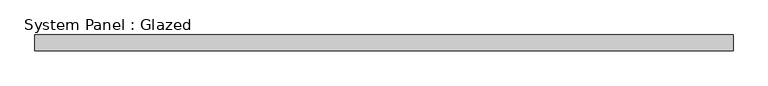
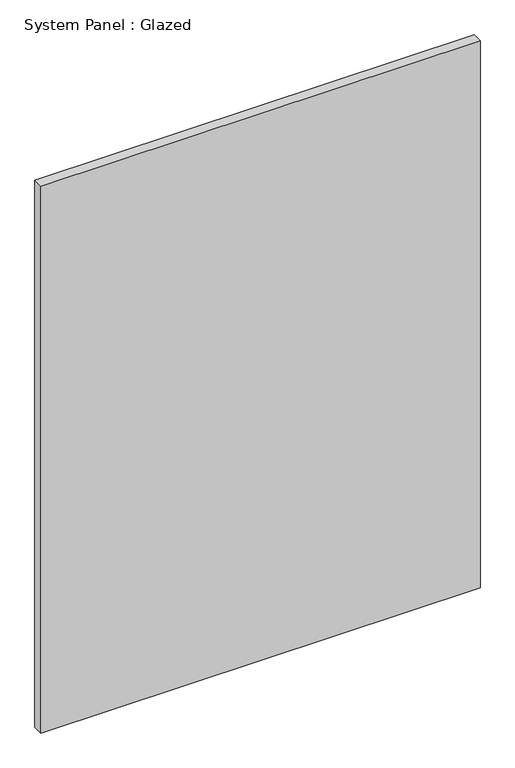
"""IFC4 building model written with IfcOpenShell, lengths in millimetres: plate geometry, System Panel : Glazed."""

from ifc_helpers import new_model, si_unit, origin, origin_with_axes, place, context, project, spatial, polyline, outline, extrude, source, transform, mapped, element, save


def system_panel_glazed_6b3f3dd8(model_context):
    return source(origin(), model_context, "Body", "SweptSolid", [
        extrude(outline(polyline([(557.2124998, 19.05), (-557.2124998, 19.05), (-557.2124998, 44.45), (557.2124998, 44.45), (557.2124998, 19.05)])), origin_with_axes(), (0.0, 0.0, 1.0), 1466.85),
    ])


if __name__ == "__main__":
    model = new_model("IFC4")
    model_context = context("Model", 3, world=origin())
    ifc_project = project(units=[si_unit("LENGTHUNIT", "METRE", prefix="MILLI")], contexts=[model_context])
    site = spatial("IfcSite", under=ifc_project)
    building = spatial("IfcBuilding", under=site)
    placement = place(None, origin())
    system_panel_glazed_shape = system_panel_glazed_6b3f3dd8(model_context)
    element("IfcPlate", 1, ObjectType="System Panel : Glazed", at=placement, inside=building, context=model_context, shape_type="MappedRepresentation", body=[
        mapped(system_panel_glazed_shape, transform((0.0, 0.0, 0.0), x_axis=(1.0, 0.0, 0.0), y_axis=(0.0, 1.0, 0.0), z_axis=(0.0, 0.0, 1.0))),
    ])
    save(model, "model.ifc")
